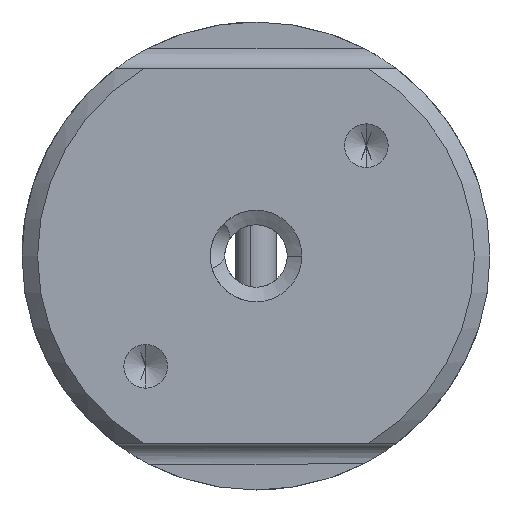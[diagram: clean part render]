
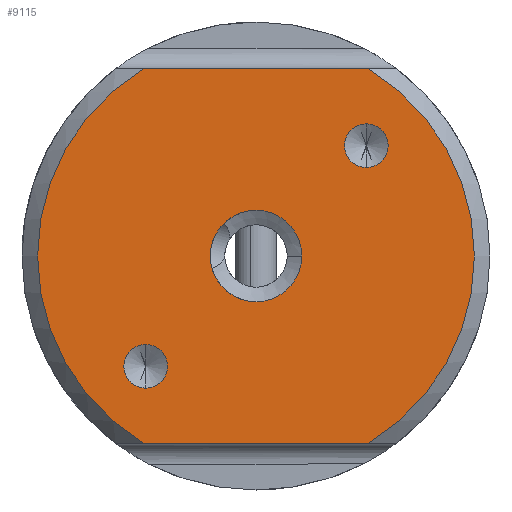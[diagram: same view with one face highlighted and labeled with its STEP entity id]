
A CAD part, front view. The second image highlights one B-rep face of the part: STEP entity #9115.
In plain terms, the highlighted planar face has unit normal (0, -1, 0).
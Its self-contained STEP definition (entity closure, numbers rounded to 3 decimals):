
#1 = DIRECTION ( 'NONE',  ( 0., -1., 0. ) ) ;
#169 = AXIS2_PLACEMENT_3D ( 'NONE', #7598, #315, #8816 ) ;
#186 = CARTESIAN_POINT ( 'NONE',  ( 9.075, 9.474, 36.817 ) ) ;
#220 = DIRECTION ( 'NONE',  ( 0., -1., 0. ) ) ;
#221 = DIRECTION ( 'NONE',  ( 0., -1., 0. ) ) ;
#261 = CARTESIAN_POINT ( 'NONE',  ( 9.075, 9.474, 41.217 ) ) ;
#315 = DIRECTION ( 'NONE',  ( 0., 1., 0. ) ) ;
#608 = VERTEX_POINT ( 'NONE', #7565 ) ;
#662 = AXIS2_PLACEMENT_3D ( 'NONE', #14201, #6864, #15434 ) ;
#682 = EDGE_CURVE ( 'NONE', #1496, #7432, #11531, .T. ) ;
#807 = EDGE_CURVE ( 'NONE', #13642, #5442, #4682, .T. ) ;
#844 = VERTEX_POINT ( 'NONE', #7295 ) ;
#1333 = CARTESIAN_POINT ( 'NONE',  ( 19.682, 9.474, 45.324 ) ) ;
#1429 = ORIENTED_EDGE ( 'NONE', *, *, #10262, .T. ) ;
#1496 = VERTEX_POINT ( 'NONE', #7314 ) ;
#1598 = AXIS2_PLACEMENT_3D ( 'NONE', #14585, #7234, #15817 ) ;
#1601 = ORIENTED_EDGE ( 'NONE', *, *, #11509, .F. ) ;
#1678 = EDGE_LOOP ( 'NONE', ( #7810, #1429, #4201, #3635 ) ) ;
#1712 = AXIS2_PLACEMENT_3D ( 'NONE', #7491, #221, #8715 ) ;
#1962 = FACE_BOUND ( 'NONE', #11133, .T. ) ;
#2284 = ORIENTED_EDGE ( 'NONE', *, *, #11733, .F. ) ;
#2436 = CARTESIAN_POINT ( 'NONE',  ( -1.741, 9.474, 54.817 ) ) ;
#2709 = PLANE ( 'NONE',  #169 ) ;
#2904 = AXIS2_PLACEMENT_3D ( 'NONE', #10403, #3125, #11656 ) ;
#3125 = DIRECTION ( 'NONE',  ( 0., -1., 0. ) ) ;
#3380 = ORIENTED_EDGE ( 'NONE', *, *, #9565, .F. ) ;
#3402 = ORIENTED_EDGE ( 'NONE', *, *, #9337, .F. ) ;
#3635 = ORIENTED_EDGE ( 'NONE', *, *, #6927, .T. ) ;
#3972 = CIRCLE ( 'NONE', #1712, 4.4 ) ;
#4201 = ORIENTED_EDGE ( 'NONE', *, *, #682, .T. ) ;
#4682 = CIRCLE ( 'NONE', #5311, 21. ) ;
#5225 = FACE_OUTER_BOUND ( 'NONE', #1678, .T. ) ;
#5311 = AXIS2_PLACEMENT_3D ( 'NONE', #8680, #220, #13508 ) ;
#5442 = VERTEX_POINT ( 'NONE', #8563 ) ;
#6245 = ORIENTED_EDGE ( 'NONE', *, *, #15650, .F. ) ;
#6543 = CARTESIAN_POINT ( 'NONE',  ( -1.531, 9.474, 26.211 ) ) ;
#6864 = DIRECTION ( 'NONE',  ( 0., -1., 0. ) ) ;
#6927 = EDGE_CURVE ( 'NONE', #7432, #13642, #10840, .T. ) ;
#7004 = EDGE_CURVE ( 'NONE', #10621, #844, #3972, .T. ) ;
#7020 = AXIS2_PLACEMENT_3D ( 'NONE', #6543, #15104, #7744 ) ;
#7108 = EDGE_LOOP ( 'NONE', ( #3380, #12342 ) ) ;
#7234 = DIRECTION ( 'NONE',  ( 0., -1., 0. ) ) ;
#7280 = CARTESIAN_POINT ( 'NONE',  ( 9.075, 9.474, 36.817 ) ) ;
#7295 = CARTESIAN_POINT ( 'NONE',  ( 9.075, 9.474, 32.417 ) ) ;
#7314 = CARTESIAN_POINT ( 'NONE',  ( 19.892, 9.474, 18.817 ) ) ;
#7432 = VERTEX_POINT ( 'NONE', #7694 ) ;
#7443 = CARTESIAN_POINT ( 'NONE',  ( 9.075, 9.474, 54.817 ) ) ;
#7491 = CARTESIAN_POINT ( 'NONE',  ( 9.075, 9.474, 36.817 ) ) ;
#7565 = CARTESIAN_POINT ( 'NONE',  ( -1.531, 9.474, 24.111 ) ) ;
#7598 = CARTESIAN_POINT ( 'NONE',  ( -12.177, 9.474, 18.817 ) ) ;
#7694 = CARTESIAN_POINT ( 'NONE',  ( 19.892, 9.474, 54.817 ) ) ;
#7735 = CARTESIAN_POINT ( 'NONE',  ( 9.075, 9.474, 18.817 ) ) ;
#7744 = DIRECTION ( 'NONE',  ( 0., 0., -1. ) ) ;
#7810 = ORIENTED_EDGE ( 'NONE', *, *, #807, .T. ) ;
#7857 = VERTEX_POINT ( 'NONE', #1333 ) ;
#7954 = VERTEX_POINT ( 'NONE', #12632 ) ;
#8266 = CIRCLE ( 'NONE', #7020, 2.1 ) ;
#8445 = FACE_BOUND ( 'NONE', #7108, .T. ) ;
#8488 = DIRECTION ( 'NONE',  ( 0., 0., -1. ) ) ;
#8563 = CARTESIAN_POINT ( 'NONE',  ( -1.741, 9.474, 18.817 ) ) ;
#8672 = CIRCLE ( 'NONE', #2904, 2.1 ) ;
#8680 = CARTESIAN_POINT ( 'NONE',  ( 9.075, 9.474, 36.817 ) ) ;
#8715 = DIRECTION ( 'NONE',  ( 0., 0., -1. ) ) ;
#8816 = DIRECTION ( 'NONE',  ( 0., 0., 1. ) ) ;
#9115 = ADVANCED_FACE ( 'NONE', ( #8445, #14611, #1962, #5225 ), #2709, .F. ) ;
#9208 = CIRCLE ( 'NONE', #1598, 2.1 ) ;
#9337 = EDGE_CURVE ( 'NONE', #7857, #7954, #10333, .T. ) ;
#9565 = EDGE_CURVE ( 'NONE', #844, #10621, #13798, .T. ) ;
#10262 = EDGE_CURVE ( 'NONE', #5442, #1496, #13784, .T. ) ;
#10333 = CIRCLE ( 'NONE', #662, 2.1 ) ;
#10403 = CARTESIAN_POINT ( 'NONE',  ( -1.531, 9.474, 26.211 ) ) ;
#10446 = VECTOR ( 'NONE', #10866, 1000. ) ;
#10519 = VECTOR ( 'NONE', #15151, 1000. ) ;
#10621 = VERTEX_POINT ( 'NONE', #261 ) ;
#10840 = LINE ( 'NONE', #7443, #10446 ) ;
#10866 = DIRECTION ( 'NONE',  ( -1., 0., 0. ) ) ;
#11133 = EDGE_LOOP ( 'NONE', ( #3402, #1601 ) ) ;
#11509 = EDGE_CURVE ( 'NONE', #7954, #7857, #9208, .T. ) ;
#11531 = CIRCLE ( 'NONE', #13802, 21. ) ;
#11621 = VERTEX_POINT ( 'NONE', #13593 ) ;
#11656 = DIRECTION ( 'NONE',  ( 0., 0., -1. ) ) ;
#11733 = EDGE_CURVE ( 'NONE', #11621, #608, #8266, .T. ) ;
#12342 = ORIENTED_EDGE ( 'NONE', *, *, #7004, .F. ) ;
#12632 = CARTESIAN_POINT ( 'NONE',  ( 19.682, 9.474, 49.524 ) ) ;
#13508 = DIRECTION ( 'NONE',  ( 0., 0., 1. ) ) ;
#13565 = DIRECTION ( 'NONE',  ( 0., 0., 1. ) ) ;
#13593 = CARTESIAN_POINT ( 'NONE',  ( -1.531, 9.474, 28.311 ) ) ;
#13642 = VERTEX_POINT ( 'NONE', #2436 ) ;
#13784 = LINE ( 'NONE', #7735, #10519 ) ;
#13798 = CIRCLE ( 'NONE', #15418, 4.4 ) ;
#13802 = AXIS2_PLACEMENT_3D ( 'NONE', #186, #14824, #13565 ) ;
#14121 = EDGE_LOOP ( 'NONE', ( #6245, #2284 ) ) ;
#14201 = CARTESIAN_POINT ( 'NONE',  ( 19.682, 9.474, 47.424 ) ) ;
#14585 = CARTESIAN_POINT ( 'NONE',  ( 19.682, 9.474, 47.424 ) ) ;
#14611 = FACE_BOUND ( 'NONE', #14121, .T. ) ;
#14824 = DIRECTION ( 'NONE',  ( 0., -1., 0. ) ) ;
#15104 = DIRECTION ( 'NONE',  ( 0., -1., 0. ) ) ;
#15151 = DIRECTION ( 'NONE',  ( 1., 0., 0. ) ) ;
#15418 = AXIS2_PLACEMENT_3D ( 'NONE', #7280, #1, #8488 ) ;
#15434 = DIRECTION ( 'NONE',  ( 0., 0., -1. ) ) ;
#15650 = EDGE_CURVE ( 'NONE', #608, #11621, #8672, .T. ) ;
#15817 = DIRECTION ( 'NONE',  ( 0., 0., -1. ) ) ;
